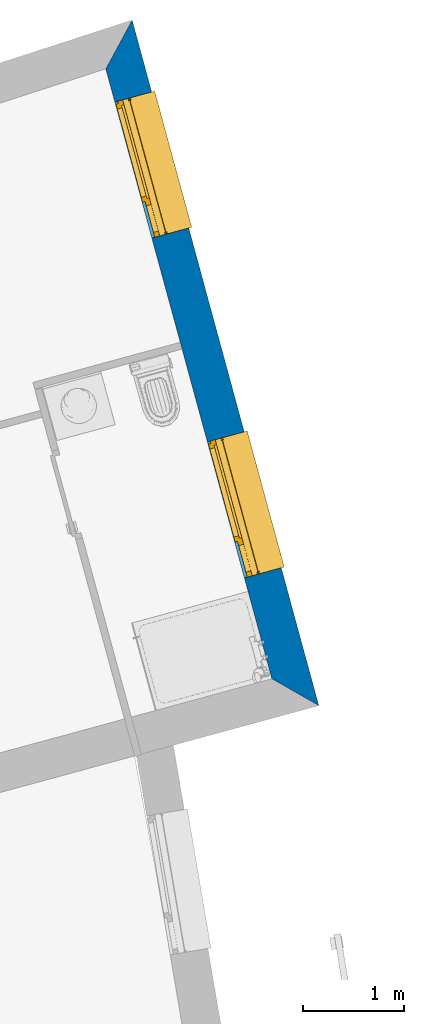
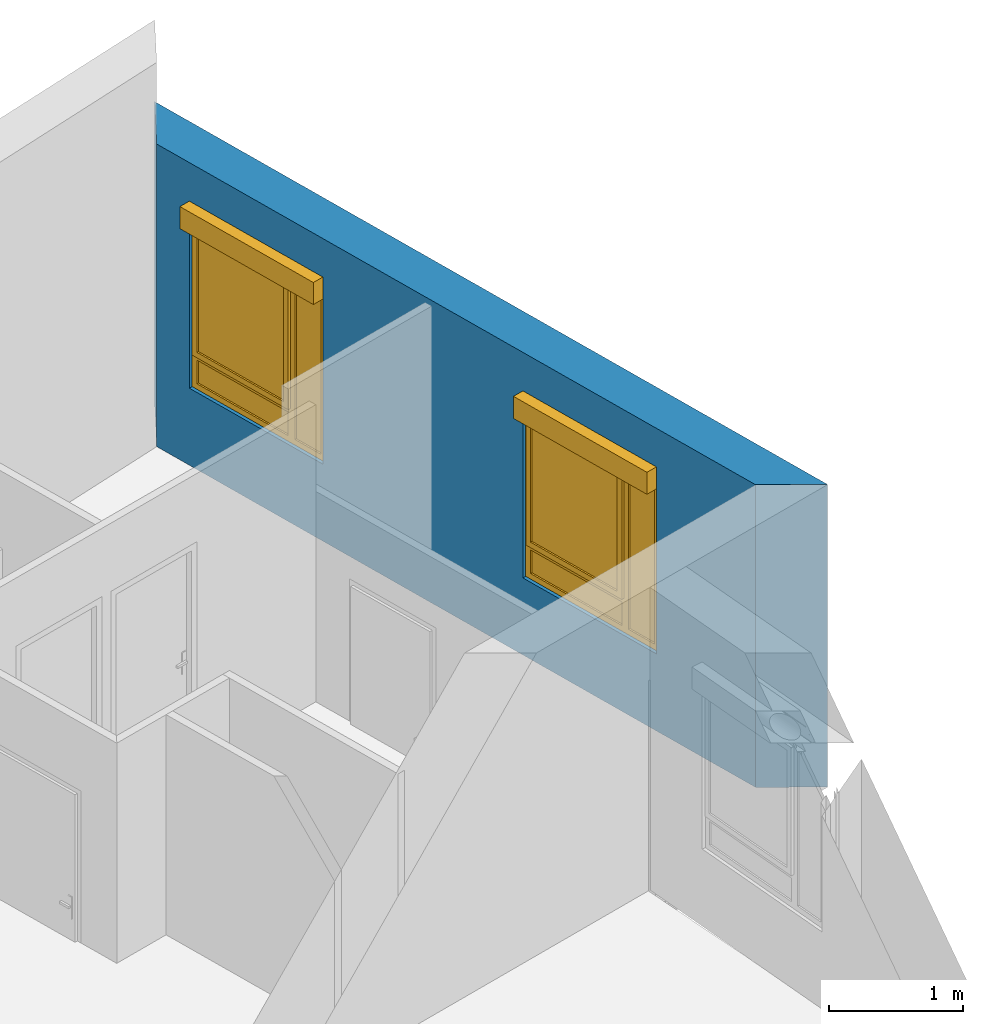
# One storey, part 82 of 121: 2 windows, 1 wall, 2 openings.
"""IFC2X3 building model written with IfcOpenShell, lengths in metres."""

from ifc_helpers import new_model, entity, si_unit, converted_unit, derived_unit, money_unit, direction, frame, origin_with_axes, place, context, subcontext, project, spatial, polyline, outline, extrude, open_shell, faceted_brep, surface_model, source, transform, mapped, material, layer, layer_set, layer_usage, type_object, element, fill, save


model = new_model("IFC2X3")

# Units and contexts
model_context = context("Model", 3, precision=1e-05, world=origin_with_axes(), true_north=direction((0.0, 1.0)))
body_context = subcontext(model_context, "Body", "Model", "MODEL_VIEW")
ifc_project = project(units=[si_unit("LENGTHUNIT", "METRE"), si_unit("AREAUNIT", "SQUARE_METRE"), si_unit("VOLUMEUNIT", "CUBIC_METRE"), converted_unit("PLANEANGLEUNIT", "DEGREE", entity("IfcPlaneAngleMeasure", 0.0174532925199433), si_unit("PLANEANGLEUNIT", "RADIAN"), dimensions=[0, 0, 0, 0, 0, 0, 0]), money_unit("CHF"), converted_unit("TIMEUNIT", "Year", entity("IfcTimeMeasure", 31557600.0), si_unit("TIMEUNIT", "SECOND"), dimensions=[0, 0, 1, 0, 0, 0, 0]), si_unit("MASSUNIT", "GRAM", prefix="KILO"), si_unit("THERMODYNAMICTEMPERATUREUNIT", "DEGREE_CELSIUS"), si_unit("LUMINOUSINTENSITYUNIT", "LUMEN"), si_unit("ENERGYUNIT", "JOULE", prefix="MEGA"), derived_unit("THERMALCONDUCTANCEUNIT", [(si_unit("POWERUNIT", "WATT"), 1), (si_unit("LENGTHUNIT", "METRE"), -1), (si_unit("THERMODYNAMICTEMPERATUREUNIT", "KELVIN"), -1)]), derived_unit("SPECIFICHEATCAPACITYUNIT", [(si_unit("ENERGYUNIT", "JOULE"), 1), (si_unit("MASSUNIT", "GRAM", prefix="KILO"), -1), (si_unit("THERMODYNAMICTEMPERATUREUNIT", "KELVIN"), -1)]), derived_unit("MASSDENSITYUNIT", [(si_unit("MASSUNIT", "GRAM", prefix="KILO"), 1), (si_unit("VOLUMEUNIT", "CUBIC_METRE"), -1)])], contexts=[model_context])

# Site, building, storey
site_placement = place(None, origin_with_axes())
site = spatial("IfcSite", under=ifc_project, at=site_placement, Name="Site", CompositionType="ELEMENT")
building_placement = place(site_placement, origin_with_axes())
building = spatial("IfcBuilding", under=site, at=building_placement, Name="Bâtiment", CompositionType="ELEMENT")
storey_placement = place(building_placement, frame((0.0, 0.0, 2.75), z_axis=(0.0, 0.0, 1.0), x_axis=(1.0, 0.0, 0.0)))
storey = spatial("IfcBuildingStorey", under=building, at=storey_placement, Name="Etage 1", CompositionType="ELEMENT", Elevation=2.75)

# Wall, openings, windows
ifc_material_1 = material(Name="Parpaing 312445824")
ifc_layer_1 = layer(ifc_material_1, 0.22, ventilated="UNKNOWN")
ifc_material_2 = material(Name="Isolant styromousse 301821074")
ifc_layer_2 = layer(ifc_material_2, 0.16, ventilated="UNKNOWN")
ifc_layer_set = layer_set([ifc_layer_1, ifc_layer_2], Name="isol int 22+16 0836643197")
ifc_layer_usage = layer_usage(ifc_layer_set, "AXIS2", "NEGATIVE", 0.0)
wall_type = type_object("IfcWallType", Name="isol int 22+16 0836643197 380", PredefinedType="NOTDEFINED")
wall_placement = place(storey_placement, frame((9586.85805817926, -1013.814604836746, 57.7), z_axis=(0.0, 0.0, 1.0), x_axis=(0.2627340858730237, -0.9648682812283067, 0.0)))
wall = element("IfcWallStandardCase", 1, at=wall_placement, inside=storey, type_object=wall_type, material=ifc_layer_usage, Name="Mur-113", context=body_context, shape_type="SweptSolid", body=[
    extrude(outline(polyline([(0.3988171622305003, -0.3799999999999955), (6.677999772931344, -0.3799999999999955), (7.057999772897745, 0.0), (0.0, 0.0), (0.3988171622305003, -0.3799999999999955)])), origin_with_axes(), (0.0, 0.0, 1.0), 2.75),
])
opening_1_placement = place(wall_placement, frame((4.938572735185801, 0.0, 0.7000000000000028), z_axis=(0.0, 0.0, 1.0), x_axis=(1.0, 0.0, 0.0)))
opening_1 = element("IfcOpeningElement", 2, at=opening_1_placement, cuts=wall, Name="Fen-045", context=body_context, shape_type="Brep", body=[
    faceted_brep([(-0.6999999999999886, -0.220000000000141, 1.5), (0.6999999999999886, -0.220000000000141, 1.5), (0.6999999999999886, 1.790229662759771, 1.5), (-0.7000000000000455, 1.790229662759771, 1.5), (-0.6999999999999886, -0.220000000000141, 1.700000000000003), (0.6999999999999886, -0.220000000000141, 1.700000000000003), (0.6999999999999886, -0.2999999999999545, 1.5), (0.6999999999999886, -0.2999999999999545, 0.0), (0.6999999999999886, 1.790229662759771, 0.0), (-0.7000000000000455, 1.790229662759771, 0.0), (-0.6999999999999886, -0.3000000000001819, 1.5), (-0.6999999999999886, -0.3000000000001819, 0.0), (-0.6999999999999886, -0.4800000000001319, 1.5), (-0.6999999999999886, -0.4800000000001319, 1.700000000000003), (0.6999999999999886, -0.4800000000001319, 1.700000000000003), (0.6999999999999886, -0.4800000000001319, 1.5), (0.6999999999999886, -2.170229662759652, 1.5), (0.6999999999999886, -2.170229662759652, 0.0), (-0.6999999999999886, -2.170229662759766, 0.0), (-0.6999999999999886, -2.170229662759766, 1.5)], [[[0, 1, 2, 3]], [[1, 0, 4, 5]], [[1, 6, 7, 8, 2]], [[2, 8, 9, 3]], [[10, 0, 3, 9, 11]], [[0, 10, 12, 13, 4]], [[14, 5, 4, 13]], [[6, 1, 5, 14, 15]], [[6, 15, 16, 17, 7]], [[7, 11, 9, 8]], [[12, 10, 11, 18, 19]], [[12, 15, 14, 13]], [[15, 12, 19, 16]], [[19, 18, 17, 16]], [[11, 7, 17, 18]]]),
])
opening_2_placement = place(wall_placement, frame((1.440861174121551, 0.0, 0.7000000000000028), z_axis=(0.0, 0.0, 1.0), x_axis=(1.0, 0.0, 0.0)))
opening_2 = element("IfcOpeningElement", 3, at=opening_2_placement, cuts=wall, Name="Fen-045", context=body_context, shape_type="Brep", body=[
    faceted_brep([(-0.7000000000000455, -0.2200000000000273, 1.5), (0.6999999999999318, -0.220000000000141, 1.5), (0.6999999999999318, 1.790229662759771, 1.5), (-0.7000000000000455, 1.790229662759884, 1.5), (-0.7000000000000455, -0.2200000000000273, 1.700000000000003), (0.6999999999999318, -0.220000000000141, 1.700000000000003), (0.6999999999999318, -0.2999999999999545, 1.5), (0.6999999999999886, -0.2999999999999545, 0.0), (0.6999999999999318, 1.790229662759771, 0.0), (-0.7000000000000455, 1.790229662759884, 0.0), (-0.7000000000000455, -0.3000000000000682, 1.5), (-0.7000000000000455, -0.3000000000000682, 0.0), (-0.7000000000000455, -0.4800000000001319, 1.5), (-0.7000000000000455, -0.4800000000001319, 1.700000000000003), (0.6999999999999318, -0.4800000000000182, 1.700000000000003), (0.6999999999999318, -0.4800000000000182, 1.5), (0.7000000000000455, -2.170229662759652, 1.5), (0.7000000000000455, -2.170229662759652, 0.0), (-0.6999999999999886, -2.170229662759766, 0.0), (-0.6999999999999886, -2.170229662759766, 1.5)], [[[0, 1, 2, 3]], [[1, 0, 4, 5]], [[1, 6, 7, 8, 2]], [[2, 8, 9, 3]], [[10, 0, 3, 9, 11]], [[0, 10, 12, 13, 4]], [[14, 5, 4, 13]], [[6, 1, 5, 14, 15]], [[6, 15, 16, 17, 7]], [[7, 11, 9, 8]], [[12, 10, 11, 18, 19]], [[12, 15, 14, 13]], [[15, 12, 19, 16]], [[19, 18, 17, 16]], [[11, 7, 17, 18]]]),
])
window_style = type_object("IfcWindowStyle", Name="Fenêtre variable 27", ConstructionType="NOTDEFINED", OperationType="TRIPLE_PANEL_LEFT", ParameterTakesPrecedence=False, Sizeable=False)
shared_shape = source(origin_with_axes(), body_context, "Body", "SurfaceModel", [
    surface_model("IfcShellBasedSurfaceModel", [(0.7, -0.05100000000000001, 0.05), (-0.7, -0.05100000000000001, 0.05000000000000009), (-0.7, -0.05100000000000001, 0.04000000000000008), (0.7, -0.05100000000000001, 0.04), (-0.7, -0.3799999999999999, 0.02900000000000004), (0.7, -0.3799999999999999, 0.02899999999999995), (-0.7, -0.3799999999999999, 0.00900000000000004), (0.7, -0.3799999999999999, 0.008999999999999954), (-0.7, -0.3699999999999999, 0.01900000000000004), (0.7, -0.3699999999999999, 0.01899999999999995)], [open_shell([[[0, 1, 2, 3]], [[3, 2, 4, 5]], [[5, 4, 6, 7]], [[7, 6, 8, 9]]])]),
    faceted_brep([(0.7, -0.13, 1.7), (0.7, 0.13, 1.7), (0.697, 0.13, 1.7), (0.697, -0.13, 1.7), (0.7, -0.13, 1.5), (0.7, 0.13, 1.5), (0.697, 0.13, 1.5), (0.697, -0.13, 1.5)], [[[0, 1, 2, 3]], [[0, 4, 5, 1]], [[1, 5, 6, 2]], [[3, 2, 6, 7]], [[4, 0, 3, 7]], [[5, 4, 7, 6]]]),
    faceted_brep([(-0.6970000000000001, -0.1299999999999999, 1.7), (-0.6970000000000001, 0.1300000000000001, 1.7), (-0.7000000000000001, 0.1300000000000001, 1.7), (-0.7000000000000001, -0.1299999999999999, 1.7), (-0.6970000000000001, -0.1299999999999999, 1.5), (-0.6970000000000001, 0.1300000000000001, 1.5), (-0.7000000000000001, 0.1300000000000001, 1.5), (-0.7000000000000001, -0.1299999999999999, 1.5)], [[[0, 1, 2, 3]], [[0, 4, 5, 1]], [[1, 5, 6, 2]], [[3, 2, 6, 7]], [[4, 0, 3, 7]], [[5, 4, 7, 6]]]),
    faceted_brep([(0.697, -0.13, 1.5), (0.697, -0.13, 1.7), (-0.697, -0.1299999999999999, 1.7), (-0.697, -0.1299999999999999, 1.5), (0.697, -0.127, 1.5), (0.697, -0.127, 1.697), (0.697, 0.127, 1.697), (0.697, 0.127, 1.503), (0.697, -0.108, 1.503), (0.697, -0.108, 1.5), (0.697, 0.13, 1.5), (0.697, 0.13, 1.7), (-0.697, 0.1300000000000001, 1.7), (-0.697, 0.1300000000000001, 1.5), (-0.697, -0.1079999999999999, 1.5), (-0.697, -0.1079999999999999, 1.503), (-0.697, 0.1270000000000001, 1.503), (-0.697, 0.1270000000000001, 1.697), (-0.697, -0.1269999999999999, 1.697), (-0.697, -0.1269999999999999, 1.5)], [[[0, 1, 2, 3]], [[0, 4, 5, 6, 7, 8, 9, 10, 11, 1]], [[1, 11, 12, 2]], [[3, 2, 12, 13, 14, 15, 16, 17, 18, 19]], [[4, 0, 3, 19]], [[5, 4, 19, 18]], [[6, 5, 18, 17]], [[7, 6, 17, 16]], [[8, 7, 16, 15]], [[9, 8, 15, 14]], [[10, 9, 14, 13]], [[11, 10, 13, 12]]]),
    faceted_brep([(0.694, -0.08075423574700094, 1.585760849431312), (0.694, -0.07705479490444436, 1.571954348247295), (0.694, -0.07101408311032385, 1.559), (0.694, -0.06281564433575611, 1.547291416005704), (0.694, -0.05270858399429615, 1.537184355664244), (0.694, -0.04099999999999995, 1.528985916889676), (0.694, -0.02804565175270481, 1.522945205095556), (0.694, -0.01423915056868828, 1.519245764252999), (0.694, 0.0, 1.518), (0.694, 0.01423915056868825, 1.519245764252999), (0.694, 0.02804565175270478, 1.522945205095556), (0.694, 0.04099999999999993, 1.528985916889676), (0.694, 0.05270858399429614, 1.537184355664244), (0.694, 0.06281564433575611, 1.547291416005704), (0.694, 0.07101408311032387, 1.559), (0.694, 0.07705479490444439, 1.571954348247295), (0.694, 0.08075423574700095, 1.585760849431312), (0.694, 0.0819999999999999, 1.6), (0.694, 0.08075423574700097, 1.614239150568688), (0.694, 0.0770547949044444, 1.628045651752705), (0.694, 0.07101408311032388, 1.641), (0.694, 0.06281564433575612, 1.652708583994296), (0.694, 0.05270858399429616, 1.662815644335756), (0.694, 0.04099999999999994, 1.671014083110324), (0.694, 0.02804565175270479, 1.677054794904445), (0.694, 0.01423915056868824, 1.680754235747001), (0.694, 0.0, 1.682), (0.694, -0.01423915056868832, 1.680754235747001), (0.694, -0.02804565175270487, 1.677054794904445), (0.694, -0.04100000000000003, 1.671014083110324), (0.694, -0.05270858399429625, 1.662815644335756), (0.694, -0.06281564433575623, 1.652708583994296), (0.694, -0.07101408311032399, 1.641), (0.694, -0.07705479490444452, 1.628045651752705), (0.694, -0.0807542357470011, 1.614239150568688), (0.694, -0.08200000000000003, 1.6), (-0.694, -0.08075423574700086, 1.585760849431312), (-0.694, -0.07705479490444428, 1.571954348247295), (-0.694, -0.07101408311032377, 1.559), (-0.694, -0.06281564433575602, 1.547291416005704), (-0.694, -0.05270858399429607, 1.537184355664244), (-0.694, -0.04099999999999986, 1.528985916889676), (-0.694, -0.02804565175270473, 1.522945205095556), (-0.694, -0.0142391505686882, 1.519245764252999), (-0.694, 0.0, 1.518), (-0.694, 0.01423915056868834, 1.519245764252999), (-0.694, 0.02804565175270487, 1.522945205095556), (-0.694, 0.04100000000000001, 1.528985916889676), (-0.694, 0.05270858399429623, 1.537184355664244), (-0.694, 0.06281564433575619, 1.547291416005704), (-0.694, 0.07101408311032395, 1.559), (-0.694, 0.07705479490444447, 1.571954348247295), (-0.694, 0.08075423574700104, 1.585760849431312), (-0.694, 0.08199999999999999, 1.6), (-0.694, 0.08075423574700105, 1.614239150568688), (-0.694, 0.07705479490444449, 1.628045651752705), (-0.694, 0.07101408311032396, 1.641), (-0.694, 0.0628156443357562, 1.652708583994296), (-0.694, 0.05270858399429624, 1.662815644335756), (-0.694, 0.04100000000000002, 1.671014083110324), (-0.694, 0.02804565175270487, 1.677054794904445), (-0.694, 0.01423915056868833, 1.680754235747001), (-0.694, 0.0, 1.682), (-0.694, -0.01423915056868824, 1.680754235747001), (-0.694, -0.02804565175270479, 1.677054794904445), (-0.694, -0.04099999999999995, 1.671014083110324), (-0.694, -0.05270858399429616, 1.662815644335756), (-0.694, -0.06281564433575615, 1.652708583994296), (-0.694, -0.07101408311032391, 1.641), (-0.694, -0.07705479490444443, 1.628045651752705), (-0.694, -0.08075423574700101, 1.614239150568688), (-0.694, -0.08199999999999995, 1.6)], [[[0, 1, 2, 3, 4, 5, 6, 7, 8, 9, 10, 11, 12, 13, 14, 15, 16, 17, 18, 19, 20, 21, 22, 23, 24, 25, 26, 27, 28, 29, 30, 31, 32, 33, 34, 35]], [[1, 0, 36, 37]], [[2, 1, 37, 38]], [[3, 2, 38, 39]], [[4, 3, 39, 40]], [[5, 4, 40, 41]], [[6, 5, 41, 42]], [[7, 6, 42, 43]], [[8, 7, 43, 44]], [[9, 8, 44, 45]], [[10, 9, 45, 46]], [[11, 10, 46, 47]], [[12, 11, 47, 48]], [[13, 12, 48, 49]], [[14, 13, 49, 50]], [[15, 14, 50, 51]], [[16, 15, 51, 52]], [[17, 16, 52, 53]], [[18, 17, 53, 54]], [[19, 18, 54, 55]], [[20, 19, 55, 56]], [[21, 20, 56, 57]], [[22, 21, 57, 58]], [[23, 22, 58, 59]], [[24, 23, 59, 60]], [[25, 24, 60, 61]], [[26, 25, 61, 62]], [[27, 26, 62, 63]], [[28, 27, 63, 64]], [[29, 28, 64, 65]], [[30, 29, 65, 66]], [[31, 30, 66, 67]], [[32, 31, 67, 68]], [[33, 32, 68, 69]], [[34, 33, 69, 70]], [[35, 34, 70, 71]], [[0, 35, 71, 36]], [[36, 71, 70, 69, 68, 67, 66, 65, 64, 63, 62, 61, 60, 59, 58, 57, 56, 55, 54, 53, 52, 51, 50, 49, 48, 47, 46, 45, 44, 43, 42, 41, 40, 39, 38, 37]]]),
    faceted_brep([(-0.7, -0.105, 0.03), (-0.7, -0.13, 0.03), (-0.7, -0.1299999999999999, 1.5), (-0.7, -0.1049999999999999, 1.5), (-0.6749999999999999, -0.105, 0.03), (-0.6749999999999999, -0.108, 0.03), (-0.697, -0.108, 0.03), (-0.697, -0.127, 0.03), (-0.6749999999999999, -0.127, 0.03), (-0.6749999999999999, -0.13, 0.03), (-0.6749999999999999, -0.1299999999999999, 1.5), (-0.6749999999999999, -0.1269999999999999, 1.5), (-0.697, -0.1269999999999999, 1.5), (-0.697, -0.1079999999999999, 1.5), (-0.6749999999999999, -0.1079999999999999, 1.5), (-0.6749999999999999, -0.1049999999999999, 1.5)], [[[0, 1, 2, 3]], [[0, 4, 5, 6, 7, 8, 9, 1]], [[1, 9, 10, 2]], [[3, 2, 10, 11, 12, 13, 14, 15]], [[4, 0, 3, 15]], [[5, 4, 15, 14]], [[6, 5, 14, 13]], [[7, 6, 13, 12]], [[8, 7, 12, 11]], [[9, 8, 11, 10]]]),
    faceted_brep([(0.7, -0.105, 0.03), (0.7, -0.1049999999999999, 1.5), (0.7, -0.1299999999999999, 1.5), (0.7, -0.13, 0.03), (0.6749999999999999, -0.105, 0.03), (0.6749999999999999, -0.1049999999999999, 1.5), (0.6749999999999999, -0.1079999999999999, 1.5), (0.697, -0.1079999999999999, 1.5), (0.697, -0.1269999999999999, 1.5), (0.6749999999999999, -0.1269999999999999, 1.5), (0.6749999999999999, -0.1299999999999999, 1.5), (0.6749999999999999, -0.13, 0.03), (0.6749999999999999, -0.127, 0.03), (0.697, -0.127, 0.03), (0.697, -0.108, 0.03), (0.6749999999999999, -0.108, 0.03)], [[[0, 1, 2, 3]], [[4, 5, 1, 0]], [[1, 5, 6, 7, 8, 9, 10, 2]], [[3, 2, 10, 11]], [[0, 3, 11, 12, 13, 14, 15, 4]], [[15, 6, 5, 4]], [[14, 7, 6, 15]], [[13, 8, 7, 14]], [[12, 9, 8, 13]], [[11, 10, 9, 12]]]),
    surface_model("IfcShellBasedSurfaceModel", [(0.697, -0.115, 1.6), (-0.697, -0.1149999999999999, 1.6), (-0.697, -0.12, 1.6), (0.697, -0.12, 1.6), (0.697, -0.115, 1.6), (0.697, -0.12, 1.6), (-0.697, -0.1199999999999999, 1.6), (-0.697, -0.1149999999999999, 1.6)], [open_shell([[[0, 1, 2, 3]], [[4, 5, 6, 7]]])]),
    faceted_brep([(0.697, -0.115, 1.6), (0.697, -0.1166666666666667, 1.583333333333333), (-0.697, -0.1166666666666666, 1.583333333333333), (-0.697, -0.1149999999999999, 1.6), (0.697, -0.12, 1.6), (0.697, -0.1216666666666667, 1.583333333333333), (0.697, -0.1216666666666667, 1.566666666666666), (0.697, -0.12, 1.55), (0.697, -0.115, 1.55), (0.697, -0.1166666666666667, 1.566666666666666), (-0.697, -0.1166666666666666, 1.566666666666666), (-0.697, -0.1149999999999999, 1.55), (-0.697, -0.1199999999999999, 1.55), (-0.697, -0.1216666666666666, 1.566666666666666), (-0.697, -0.1216666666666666, 1.583333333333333), (-0.697, -0.1199999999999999, 1.6)], [[[0, 1, 2, 3]], [[0, 4, 5, 6, 7, 8, 9, 1]], [[1, 9, 10, 2]], [[3, 2, 10, 11, 12, 13, 14, 15]], [[4, 0, 3, 15]], [[5, 4, 15, 14]], [[6, 5, 14, 13]], [[7, 6, 13, 12]], [[8, 7, 12, 11]], [[9, 8, 11, 10]]]),
    faceted_brep([(0.697, -0.115, 1.55), (0.697, -0.1166666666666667, 1.533333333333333), (-0.697, -0.1166666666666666, 1.533333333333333), (-0.697, -0.1149999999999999, 1.55), (0.697, -0.12, 1.55), (0.697, -0.1216666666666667, 1.533333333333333), (0.697, -0.1216666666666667, 1.516666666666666), (0.697, -0.12, 1.5), (0.697, -0.115, 1.5), (0.697, -0.1166666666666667, 1.516666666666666), (-0.697, -0.1166666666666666, 1.516666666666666), (-0.697, -0.1149999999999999, 1.5), (-0.697, -0.1199999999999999, 1.5), (-0.697, -0.1216666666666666, 1.516666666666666), (-0.697, -0.1216666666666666, 1.533333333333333), (-0.697, -0.1199999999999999, 1.55)], [[[0, 1, 2, 3]], [[0, 4, 5, 6, 7, 8, 9, 1]], [[1, 9, 10, 2]], [[3, 2, 10, 11, 12, 13, 14, 15]], [[4, 0, 3, 15]], [[5, 4, 15, 14]], [[6, 5, 14, 13]], [[7, 6, 13, 12]], [[8, 7, 12, 11]], [[9, 8, 11, 10]]]),
    faceted_brep([(0.6749999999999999, 0.0, 1.45), (0.6749999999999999, -0.02500000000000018, 1.45), (0.6499999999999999, -0.02500000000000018, 1.45), (0.6499999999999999, -0.05000000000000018, 1.45), (0.7, -0.05000000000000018, 1.45), (0.7, 0.0, 1.45), (0.6749999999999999, 0.0, 0.3099999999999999), (0.6749999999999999, -0.02500000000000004, 0.3099999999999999), (0.6499999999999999, -0.02500000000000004, 0.335), (0.6499999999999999, -0.02500000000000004, 0.3099999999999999), (0.6499999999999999, -0.05000000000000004, 0.335), (0.6499999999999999, -0.05000000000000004, 0.265), (0.6499999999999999, -0.05000000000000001, 0.05000000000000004), (0.7, -0.05000000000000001, 0.05000000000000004), (0.7, 0.0, 0.05000000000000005), (0.6499999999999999, 0.0, 0.05000000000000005), (0.6499999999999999, 0.0, 0.265), (0.6499999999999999, 0.0, 0.3099999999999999)], [[[0, 1, 2, 3, 4, 5]], [[1, 0, 6, 7]], [[8, 2, 1, 7, 9]], [[2, 8, 10, 3]], [[10, 11, 12, 13, 4, 3]], [[5, 4, 13, 14]], [[6, 0, 5, 14, 15, 16, 17]], [[6, 17, 9, 7]], [[9, 17, 16, 11, 10, 8]], [[15, 12, 11, 16]], [[14, 13, 12, 15]]]),
    faceted_brep([(-0.3068894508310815, -0.02500000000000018, 1.45), (-0.3318894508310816, -0.02500000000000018, 1.45), (-0.3318894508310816, 0.0, 1.45), (-0.3768894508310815, 0.0, 1.45), (-0.3768894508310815, -0.05000000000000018, 1.45), (-0.3068894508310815, -0.05000000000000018, 1.45), (-0.3068894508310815, -0.02500000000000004, 0.335), (-0.3068894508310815, -0.02500000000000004, 0.3099999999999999), (-0.3318894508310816, -0.02500000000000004, 0.3099999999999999), (-0.3318894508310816, 0.0, 0.3099999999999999), (-0.3068894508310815, 0.0, 0.3099999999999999), (-0.3068894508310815, 0.0, 0.265), (-0.3068894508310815, 0.0, 0.05000000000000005), (-0.3768894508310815, 0.0, 0.05000000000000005), (-0.3768894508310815, -0.05000000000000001, 0.05000000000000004), (-0.3068894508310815, -0.05000000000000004, 0.265), (-0.3068894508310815, -0.05000000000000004, 0.335), (-0.3068894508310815, -0.05000000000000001, 0.05000000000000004)], [[[0, 1, 2, 3, 4, 5]], [[1, 0, 6, 7, 8]], [[9, 2, 1, 8]], [[9, 10, 11, 12, 13, 3, 2]], [[13, 14, 4, 3]], [[15, 16, 5, 4, 14, 17]], [[6, 0, 5, 16]], [[7, 6, 16, 15, 11, 10]], [[10, 9, 8, 7]], [[11, 15, 17, 12]], [[12, 17, 14, 13]]]),
    faceted_brep([(0.6499999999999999, -0.02500000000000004, 0.335), (-0.3068894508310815, -0.02500000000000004, 0.335), (-0.3068894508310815, -0.05000000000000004, 0.335), (0.6499999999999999, -0.05000000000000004, 0.335), (-0.3068894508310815, -0.02500000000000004, 0.3099999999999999), (0.6499999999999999, -0.02500000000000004, 0.3099999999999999), (-0.3068894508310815, 0.0, 0.3099999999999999), (-0.3068894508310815, 0.0, 0.265), (-0.3068894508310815, -0.05000000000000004, 0.265), (0.6499999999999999, -0.05000000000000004, 0.265), (0.6499999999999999, 0.0, 0.265), (0.6499999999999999, 0.0, 0.3099999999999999)], [[[0, 1, 2, 3]], [[4, 1, 0, 5]], [[4, 6, 7, 8, 2, 1]], [[2, 8, 9, 3]], [[5, 0, 3, 9, 10, 11]], [[11, 6, 4, 5]], [[6, 11, 10, 7]], [[10, 9, 8, 7]]]),
    faceted_brep([(0.6749999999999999, 0.0, 1.45), (0.6749999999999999, 0.0, 1.475), (-0.3318894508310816, 0.0, 1.475), (-0.3318894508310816, 0.0, 1.45), (-0.3768894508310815, 0.0, 1.45), (-0.6499999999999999, 0.0, 1.45), (-0.7, 0.0, 1.45), (-0.7, 0.0, 1.5), (0.7, 0.0, 1.5), (0.7, 0.0, 1.45), (0.6749999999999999, -0.02500000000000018, 1.45), (0.6749999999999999, -0.02500000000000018, 1.475), (-0.3318894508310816, -0.02500000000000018, 1.475), (-0.3318894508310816, -0.02500000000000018, 1.45), (-0.3068894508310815, -0.02500000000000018, 1.45), (-0.3068894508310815, -0.05000000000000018, 1.45), (-0.3768894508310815, -0.05000000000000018, 1.45), (-0.6499999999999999, -0.05000000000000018, 1.45), (-0.7, -0.05000000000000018, 1.45), (-0.7, -0.05000000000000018, 1.5), (0.7, -0.05000000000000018, 1.5), (0.7, -0.05000000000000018, 1.45), (0.6499999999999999, -0.05000000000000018, 1.45), (0.6499999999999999, -0.02500000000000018, 1.45)], [[[0, 1, 2, 3, 4, 5, 6, 7, 8, 9]], [[1, 0, 10, 11]], [[2, 1, 11, 12]], [[3, 2, 12, 13]], [[13, 14, 15, 16, 4, 3]], [[4, 16, 17, 5]], [[5, 17, 18, 6]], [[6, 18, 19, 7]], [[7, 19, 20, 8]], [[8, 20, 21, 9]], [[10, 0, 9, 21, 22, 23]], [[14, 13, 12, 11, 10, 23]], [[14, 23, 22, 15]], [[16, 15, 22, 21, 20, 19, 18, 17]]]),
    faceted_brep([(-0.6499999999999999, -0.05000000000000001, 0.05), (-0.7, -0.05000000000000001, 0.05), (-0.7, 0.0, 0.05000000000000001), (-0.6499999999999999, 0.0, 0.05000000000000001), (-0.6499999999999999, -0.05000000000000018, 1.45), (-0.7, -0.05000000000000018, 1.45), (-0.7, 0.0, 1.45), (-0.6499999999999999, 0.0, 1.45)], [[[0, 1, 2, 3]], [[0, 4, 5, 1]], [[1, 5, 6, 2]], [[3, 2, 6, 7]], [[4, 0, 3, 7]], [[5, 4, 7, 6]]]),
    faceted_brep([(0.6499999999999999, -0.05000000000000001, 0.05), (0.7, -0.05000000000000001, 0.05), (0.7, 0.0, 0.05000000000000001), (0.6499999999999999, 0.0, 0.05000000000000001), (-0.3068894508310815, -0.05000000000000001, 0.05), (-0.3768894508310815, -0.05000000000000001, 0.05), (-0.6499999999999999, -0.05000000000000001, 0.05), (-0.7, -0.05000000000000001, 0.05), (-0.7, -0.05, 0.0), (0.7, -0.05, 0.0), (0.7, 0.0, 0.0), (-0.7, 0.0, 0.0), (-0.7, 0.0, 0.05000000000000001), (-0.6499999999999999, 0.0, 0.05000000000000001), (-0.3768894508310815, 0.0, 0.05000000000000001), (-0.3068894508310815, 0.0, 0.05000000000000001)], [[[0, 1, 2, 3]], [[0, 4, 5, 6, 7, 8, 9, 1]], [[1, 9, 10, 2]], [[3, 2, 10, 11, 12, 13, 14, 15]], [[4, 0, 3, 15]], [[5, 4, 15, 14]], [[6, 5, 14, 13]], [[7, 6, 13, 12]], [[8, 7, 12, 11]], [[9, 8, 11, 10]]]),
    faceted_brep([(0.625, -0.02500000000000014, 1.425), (0.6749999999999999, -0.02500000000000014, 1.425), (0.6749999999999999, 0.02499999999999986, 1.425), (0.625, 0.02499999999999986, 1.425), (0.625, -0.02500000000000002, 0.3599999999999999), (0.6749999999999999, -0.02500000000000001, 0.3599999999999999), (0.6749999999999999, 0.02499999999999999, 0.3599999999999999), (0.625, 0.02499999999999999, 0.3599999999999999)], [[[0, 1, 2, 3]], [[0, 4, 5, 1]], [[1, 5, 6, 2]], [[3, 2, 6, 7]], [[4, 0, 3, 7]], [[5, 4, 7, 6]]]),
    faceted_brep([(-0.2818894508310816, -0.02500000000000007, 0.3599999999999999), (-0.3318894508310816, -0.02500000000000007, 0.3599999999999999), (-0.3318894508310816, 0.02499999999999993, 0.3599999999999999), (-0.2818894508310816, 0.02499999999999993, 0.3599999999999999), (-0.2818894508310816, -0.0250000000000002, 1.425), (-0.3318894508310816, -0.0250000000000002, 1.425), (-0.3318894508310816, 0.0249999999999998, 1.425), (-0.2818894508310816, 0.0249999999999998, 1.425)], [[[0, 1, 2, 3]], [[0, 4, 5, 1]], [[1, 5, 6, 2]], [[3, 2, 6, 7]], [[4, 0, 3, 7]], [[5, 4, 7, 6]]]),
    faceted_brep([(-0.3318894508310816, -0.02500000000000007, 0.3099999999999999), (-0.3318894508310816, -0.02500000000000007, 0.3599999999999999), (-0.3318894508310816, 0.02499999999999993, 0.3599999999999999), (-0.3318894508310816, 0.02499999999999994, 0.3099999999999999), (0.6749999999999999, -0.025, 0.3099999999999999), (0.6749999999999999, -0.02500000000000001, 0.3599999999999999), (0.625, -0.02500000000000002, 0.3599999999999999), (-0.2818894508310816, -0.02500000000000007, 0.3599999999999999), (-0.2818894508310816, 0.02499999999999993, 0.3599999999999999), (0.625, 0.02499999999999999, 0.3599999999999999), (0.6749999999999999, 0.02499999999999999, 0.3599999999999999), (0.6749999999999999, 0.02499999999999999, 0.3099999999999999)], [[[0, 1, 2, 3]], [[0, 4, 5, 6, 7, 1]], [[1, 7, 8, 2]], [[3, 2, 8, 9, 10, 11]], [[4, 0, 3, 11]], [[5, 4, 11, 10]], [[6, 5, 10, 9]], [[7, 6, 9, 8]]]),
    faceted_brep([(0.6749999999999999, -0.02500000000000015, 1.475), (0.6749999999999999, -0.02500000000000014, 1.425), (0.6749999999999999, 0.02499999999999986, 1.425), (0.6749999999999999, 0.02499999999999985, 1.475), (-0.3318894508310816, -0.02500000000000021, 1.475), (-0.3318894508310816, -0.0250000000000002, 1.425), (-0.2818894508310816, -0.0250000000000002, 1.425), (0.625, -0.02500000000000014, 1.425), (0.625, 0.02499999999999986, 1.425), (-0.2818894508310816, 0.0249999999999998, 1.425), (-0.3318894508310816, 0.0249999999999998, 1.425), (-0.3318894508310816, 0.02499999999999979, 1.475)], [[[0, 1, 2, 3]], [[0, 4, 5, 6, 7, 1]], [[1, 7, 8, 2]], [[3, 2, 8, 9, 10, 11]], [[4, 0, 3, 11]], [[5, 4, 11, 10]], [[6, 5, 10, 9]], [[7, 6, 9, 8]]]),
    surface_model("IfcShellBasedSurfaceModel", [(0.625, -0.01000000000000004, 0.3599999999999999), (0.625, -0.01000000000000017, 1.425), (-0.2818894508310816, -0.01000000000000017, 1.425), (-0.2818894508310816, -0.01000000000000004, 0.3599999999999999)], [open_shell([[[0, 1, 2, 3]]])]),
    surface_model("IfcShellBasedSurfaceModel", [(0.625, 0.009999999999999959, 0.3599999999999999), (-0.2818894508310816, 0.009999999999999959, 0.3599999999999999), (-0.2818894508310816, 0.00999999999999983, 1.425), (0.625, 0.00999999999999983, 1.425)], [open_shell([[[0, 1, 2, 3]]])]),
    surface_model("IfcShellBasedSurfaceModel", [(-0.3768894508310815, -0.035, 0.05), (-0.3768894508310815, -0.03500000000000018, 1.45), (-0.65, -0.03500000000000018, 1.45), (-0.65, -0.035, 0.05)], [open_shell([[[0, 1, 2, 3]]])]),
    surface_model("IfcShellBasedSurfaceModel", [(-0.3768894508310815, -0.015, 0.05), (-0.65, -0.015, 0.05), (-0.65, -0.01500000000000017, 1.45), (-0.3768894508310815, -0.01500000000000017, 1.45)], [open_shell([[[0, 1, 2, 3]]])]),
    surface_model("IfcShellBasedSurfaceModel", [(0.6499999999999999, -0.035, 0.05), (0.6499999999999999, -0.03500000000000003, 0.265), (-0.3068894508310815, -0.03500000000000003, 0.265), (-0.3068894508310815, -0.035, 0.05)], [open_shell([[[0, 1, 2, 3]]])]),
    surface_model("IfcShellBasedSurfaceModel", [(0.6499999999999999, -0.015, 0.05), (-0.3068894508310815, -0.015, 0.05), (-0.3068894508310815, -0.01500000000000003, 0.265), (0.6499999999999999, -0.01500000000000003, 0.265)], [open_shell([[[0, 1, 2, 3]]])]),
])
window_1_placement = place(opening_1_placement, frame((0.6999999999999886, 0.0, 0.0), z_axis=(0.0, 0.0, 1.0), x_axis=(-1.0, 0.0, 0.0)))
window_1 = element("IfcWindow", 4, at=window_1_placement, inside=storey, type_object=window_style, Name="Fen-045", OverallHeight=1.5, OverallWidth=1.4, context=body_context, shape_type="MappedRepresentation", body=[
    mapped(shared_shape, transform((0.7000000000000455, 0.3500000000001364, 0.0))),
])
fill(opening_1, window_1)
window_2_placement = place(opening_2_placement, frame((0.7000000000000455, 0.0, 0.0), z_axis=(0.0, 0.0, 1.0), x_axis=(-1.0, 0.0, 0.0)))
window_2 = element("IfcWindow", 5, at=window_2_placement, inside=storey, type_object=window_style, Name="Fen-045", OverallHeight=1.5, OverallWidth=1.4, context=body_context, shape_type="MappedRepresentation", body=[
    mapped(shared_shape, transform((0.7000000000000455, 0.3500000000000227, 0.0))),
])
fill(opening_2, window_2)

save(model, "model.ifc")
